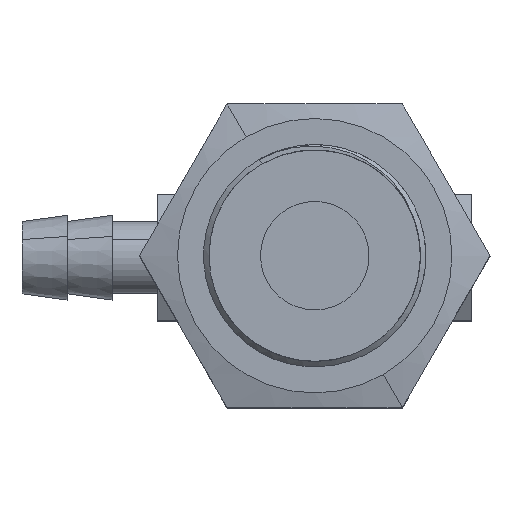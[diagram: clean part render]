
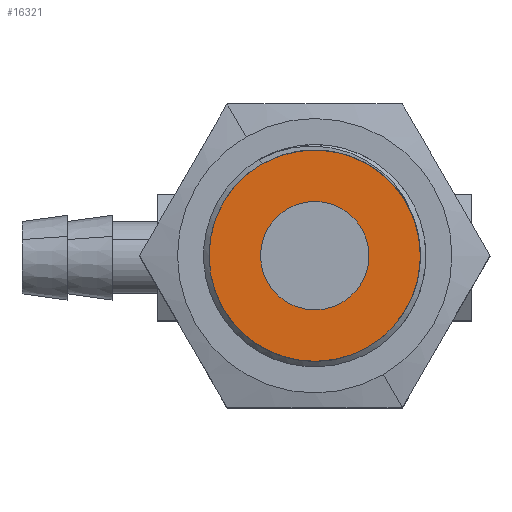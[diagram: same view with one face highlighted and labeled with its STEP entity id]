
A CAD part, top view. The second image highlights one B-rep face of the part: STEP entity #16321.
In plain terms, the highlighted planar face has unit normal (0, 0, 1).
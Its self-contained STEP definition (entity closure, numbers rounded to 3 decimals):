
#10 = CARTESIAN_POINT ( 'NONE',  ( 5.672, 0.126, 36.5 ) ) ;
#71 = CARTESIAN_POINT ( 'NONE',  ( 1.346, 4.583, 36.5 ) ) ;
#135 = CARTESIAN_POINT ( 'NONE',  ( -2.982, 3.96, 36.5 ) ) ;
#367 = DIRECTION ( 'NONE',  ( 0., 0., 1. ) ) ;
#648 = DIRECTION ( 'NONE',  ( -0.5, 0.866, 0. ) ) ;
#1342 = CARTESIAN_POINT ( 'NONE',  ( 4.298, -5.013, 36.5 ) ) ;
#1400 = CARTESIAN_POINT ( 'NONE',  ( 5.368, 1.109, 36.5 ) ) ;
#1456 = CARTESIAN_POINT ( 'NONE',  ( 0.32, 4.741, 36.5 ) ) ;
#2113 = EDGE_CURVE ( 'NONE', #14448, #9046, #13261, .T. ) ;
#2477 = ORIENTED_EDGE ( 'NONE', *, *, #14630, .F. ) ;
#2536 = CARTESIAN_POINT ( 'NONE',  ( -1.557, 1.491, 36.5 ) ) ;
#2708 = CARTESIAN_POINT ( 'NONE',  ( 4.739, -4.475, 36.5 ) ) ;
#2766 = CARTESIAN_POINT ( 'NONE',  ( 4.893, 2.03, 36.5 ) ) ;
#2830 = CARTESIAN_POINT ( 'NONE',  ( -0.707, 4.717, 36.5 ) ) ;
#2915 = ORIENTED_EDGE ( 'NONE', *, *, #4536, .F. ) ;
#3722 = B_SPLINE_CURVE_WITH_KNOTS ( 'NONE', 3,
 ( #1342, #9470, #2708, #12190, #4093, #13547, #5482, #14917, #6830, #16279, #8168, #10, #9532, #1400, #10895, #2766, #12248, #4149, #13602, #5543, #14974, #6884, #16336, #8227, #71, #9594, #1456, #10955, #2830, #12304, #4209, #13660, #5604, #15031 ),
 .UNSPECIFIED., .F., .F.,
 ( 4, 2, 2, 2, 2, 2, 2, 2, 2, 2, 2, 2, 2, 2, 2, 2, 4 ),
 ( 0., 0.001, 0.002, 0.003, 0.004, 0.005, 0.006, 0.007, 0.008, 0.009, 0.01, 0.011, 0.012, 0.014, 0.015, 0.016, 0.017 ),
 .UNSPECIFIED. ) ;
#3782 = ORIENTED_EDGE ( 'NONE', *, *, #14398, .T. ) ;
#3980 = ORIENTED_EDGE ( 'NONE', *, *, #2113, .T. ) ;
#4093 = CARTESIAN_POINT ( 'NONE',  ( 5.256, -3.579, 36.5 ) ) ;
#4149 = CARTESIAN_POINT ( 'NONE',  ( 4.268, 2.848, 36.5 ) ) ;
#4209 = CARTESIAN_POINT ( 'NONE',  ( -1.724, 4.511, 36.5 ) ) ;
#4389 = EDGE_LOOP ( 'NONE', ( #2477, #2915 ) ) ;
#4536 = EDGE_CURVE ( 'NONE', #5745, #13471, #7527, .T. ) ;
#4814 = AXIS2_PLACEMENT_3D ( 'NONE', #16883, #8771, #648 ) ;
#5180 = EDGE_CURVE ( 'NONE', #9046, #15028, #12139, .T. ) ;
#5255 = ORIENTED_EDGE ( 'NONE', *, *, #5180, .T. ) ;
#5482 = CARTESIAN_POINT ( 'NONE',  ( 5.609, -2.605, 36.5 ) ) ;
#5543 = CARTESIAN_POINT ( 'NONE',  ( 3.504, 3.547, 36.5 ) ) ;
#5604 = CARTESIAN_POINT ( 'NONE',  ( -2.681, 4.133, 36.5 ) ) ;
#5745 = VERTEX_POINT ( 'NONE', #2536 ) ;
#6590 = CARTESIAN_POINT ( 'NONE',  ( 1.443, -3.705, 36.5 ) ) ;
#6830 = CARTESIAN_POINT ( 'NONE',  ( 5.783, -1.589, 36.5 ) ) ;
#6884 = CARTESIAN_POINT ( 'NONE',  ( 2.633, 4.1, 36.5 ) ) ;
#6912 = CARTESIAN_POINT ( 'NONE',  ( -8.144, 1.06, 36.5 ) ) ;
#7222 = CIRCLE ( 'NONE', #13965, 3. ) ;
#7527 = CIRCLE ( 'NONE', #16692, 3. ) ;
#7574 = DIRECTION ( 'NONE',  ( 0., 0., 1. ) ) ;
#7720 = FACE_OUTER_BOUND ( 'NONE', #8695, .T. ) ;
#8168 = CARTESIAN_POINT ( 'NONE',  ( 5.777, -0.554, 36.5 ) ) ;
#8227 = CARTESIAN_POINT ( 'NONE',  ( 1.676, 4.491, 36.5 ) ) ;
#8250 = DIRECTION ( 'NONE',  ( 0.5, -0.866, 0. ) ) ;
#8510 = CARTESIAN_POINT ( 'NONE',  ( -0.057, -1.107, 36.5 ) ) ;
#8695 = EDGE_LOOP ( 'NONE', ( #3782, #3980, #5255 ) ) ;
#8771 = DIRECTION ( 'NONE',  ( 0., 0., 1. ) ) ;
#8928 = DIRECTION ( 'NONE',  ( 0., 0., 1. ) ) ;
#9046 = VERTEX_POINT ( 'NONE', #16369 ) ;
#9444 = AXIS2_PLACEMENT_3D ( 'NONE', #6912, #16363, #8250 ) ;
#9470 = CARTESIAN_POINT ( 'NONE',  ( 4.53, -4.754, 36.5 ) ) ;
#9532 = CARTESIAN_POINT ( 'NONE',  ( 5.591, 0.459, 36.5 ) ) ;
#9594 = CARTESIAN_POINT ( 'NONE',  ( 0.667, 4.709, 36.5 ) ) ;
#9876 = DIRECTION ( 'NONE',  ( 0.5, -0.866, 0. ) ) ;
#10348 = AXIS2_PLACEMENT_3D ( 'NONE', #10909, #8928, #14042 ) ;
#10864 = PLANE ( 'NONE',  #9444 ) ;
#10895 = CARTESIAN_POINT ( 'NONE',  ( 5.226, 1.429, 36.5 ) ) ;
#10909 = CARTESIAN_POINT ( 'NONE',  ( -0.057, -1.107, 36.5 ) ) ;
#10955 = CARTESIAN_POINT ( 'NONE',  ( -0.365, 4.745, 36.5 ) ) ;
#11737 = FACE_BOUND ( 'NONE', #4389, .T. ) ;
#12139 = CIRCLE ( 'NONE', #4814, 5.85 ) ;
#12190 = CARTESIAN_POINT ( 'NONE',  ( 5.103, -3.886, 36.5 ) ) ;
#12248 = CARTESIAN_POINT ( 'NONE',  ( 4.702, 2.314, 36.5 ) ) ;
#12304 = CARTESIAN_POINT ( 'NONE',  ( -1.39, 4.6, 36.5 ) ) ;
#13261 = CIRCLE ( 'NONE', #10348, 5.85 ) ;
#13471 = VERTEX_POINT ( 'NONE', #6590 ) ;
#13547 = CARTESIAN_POINT ( 'NONE',  ( 5.509, -2.94, 36.5 ) ) ;
#13602 = CARTESIAN_POINT ( 'NONE',  ( 4.024, 3.099, 36.5 ) ) ;
#13660 = CARTESIAN_POINT ( 'NONE',  ( -2.369, 4.278, 36.5 ) ) ;
#13965 = AXIS2_PLACEMENT_3D ( 'NONE', #8510, #367, #9876 ) ;
#14042 = DIRECTION ( 'NONE',  ( -0.5, 0.866, 0. ) ) ;
#14398 = EDGE_CURVE ( 'NONE', #15028, #14448, #3722, .T. ) ;
#14448 = VERTEX_POINT ( 'NONE', #135 ) ;
#14630 = EDGE_CURVE ( 'NONE', #13471, #5745, #7222, .T. ) ;
#14917 = CARTESIAN_POINT ( 'NONE',  ( 5.745, -1.93, 36.5 ) ) ;
#14974 = CARTESIAN_POINT ( 'NONE',  ( 3.226, 3.748, 36.5 ) ) ;
#15028 = VERTEX_POINT ( 'NONE', #17192 ) ;
#15031 = CARTESIAN_POINT ( 'NONE',  ( -2.982, 3.96, 36.5 ) ) ;
#15664 = CARTESIAN_POINT ( 'NONE',  ( -0.057, -1.107, 36.5 ) ) ;
#16279 = CARTESIAN_POINT ( 'NONE',  ( 5.8, -0.903, 36.5 ) ) ;
#16321 = ADVANCED_FACE ( 'NONE', ( #11737, #7720 ), #10864, .T. ) ;
#16336 = CARTESIAN_POINT ( 'NONE',  ( 2.318, 4.251, 36.5 ) ) ;
#16363 = DIRECTION ( 'NONE',  ( 0., 0., 1. ) ) ;
#16369 = CARTESIAN_POINT ( 'NONE',  ( 2.868, -6.173, 36.5 ) ) ;
#16692 = AXIS2_PLACEMENT_3D ( 'NONE', #15664, #7574, #17012 ) ;
#16883 = CARTESIAN_POINT ( 'NONE',  ( -0.057, -1.107, 36.5 ) ) ;
#17012 = DIRECTION ( 'NONE',  ( 0.5, -0.866, 0. ) ) ;
#17192 = CARTESIAN_POINT ( 'NONE',  ( 4.298, -5.013, 36.5 ) ) ;
